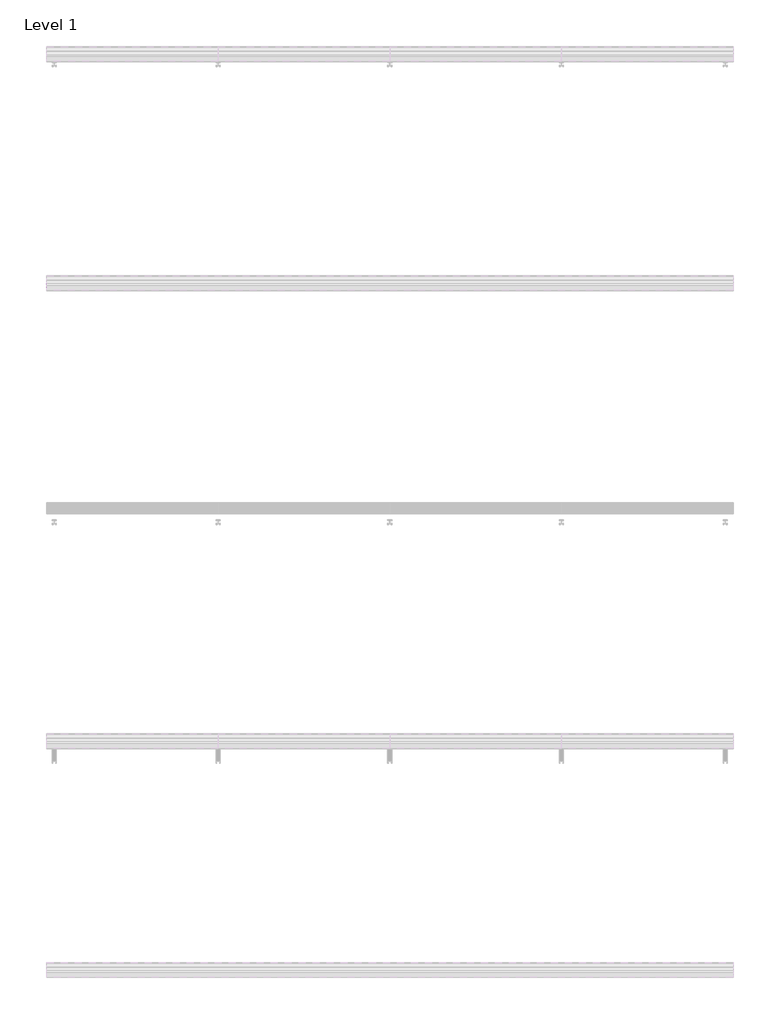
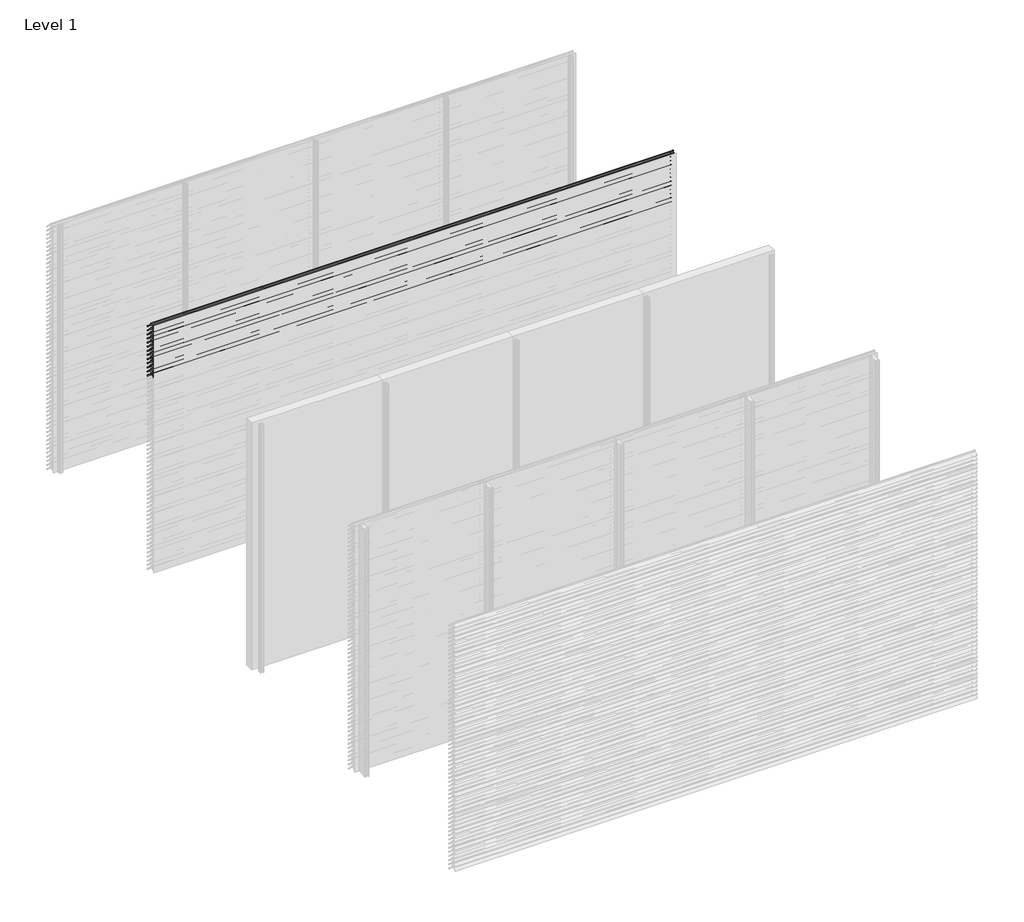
# One storey, part 37 of 173: 18 proxies.
"""IFC4 building model written with IfcOpenShell, lengths in millimetres."""

from ifc_helpers import new_model, si_unit, point, frame, frame_2d, origin, place, context, project, spatial, polyline, circle_curve, trimmed, segment, composite_curve, outline, extrude, element, save

model = new_model("IFC4")

# Units and contexts
model_context = context("Model", 3, world=origin())
ifc_project = project(units=[si_unit("LENGTHUNIT", "METRE", prefix="MILLI")], contexts=[model_context])

# Site, building, storey
site = spatial("IfcSite", under=ifc_project)
building = spatial("IfcBuilding", under=site)
storey = spatial("IfcBuildingStorey", under=building, Name="Level 1", Elevation=0.0)

# Proxies
placement = place(None, origin())
element("IfcBuildingElementProxy", 1, Name="Wall Sweeps", at=placement, inside=storey, context=model_context, shape_type="SweptSolid", body=[
    extrude(outline(composite_curve([segment(polyline([(-43998.0, 2959.1474905), (-43998.0, 2961.6227417)]), True, "CONTINUOUS"), segment(trimmed(circle_curve(frame_2d((-43951.2682172, 2916.2200208)), 65.1557103), [point((-43998.0, 2961.6227417))], [point((-43954.4014323, 2981.3003524))], False, "CARTESIAN"), True, "CONTINUOUS"), segment(polyline([(-43954.4014323, 2981.3003524), (-43934.8315836, 2981.3003524)]), True, "CONTINUOUS"), segment(trimmed(circle_curve(frame_2d((-43732.7329489, 3128.5533172)), 250.0545817), [point((-43934.8315836, 2981.3003524))], [point((-43941.4452143, 2990.8344583))], False, "CARTESIAN"), True, "CONTINUOUS"), segment(trimmed(circle_curve(frame_2d((-43953.2981792, 2985.1737835)), 13.1352966), [point((-43941.4452143, 2990.8344583))], [point((-43953.8171475, 2998.298824))], True, "CARTESIAN"), True, "CONTINUOUS"), segment(polyline([(-43953.8171475, 2998.298824), (-43953.8171475, 3000.0)]), True, "CONTINUOUS"), segment(trimmed(circle_curve(frame_2d((-43953.2981792, 2985.1737835)), 14.8352966), [point((-43953.8171475, 3000.0))], [point((-43939.9637661, 2991.6760487))], False, "CARTESIAN"), True, "CONTINUOUS"), segment(trimmed(circle_curve(frame_2d((-43732.7329489, 3128.5533172)), 248.3545817), [point((-43939.9637661, 2991.6760487))], [point((-43873.8787895, 2924.2059416))], True, "CARTESIAN"), True, "CONTINUOUS"), segment(trimmed(circle_curve(frame_2d((-43883.8147537, 2911.6649442)), 16.0), [point((-43873.8787895, 2924.2059416))], [point((-43867.8648347, 2910.4))], False, "CARTESIAN"), True, "CONTINUOUS"), segment(polyline([(-43867.8648347, 2910.4), (-43869.6712069, 2910.4)]), True, "CONTINUOUS"), segment(trimmed(circle_curve(frame_2d((-43883.8147537, 2911.6649442)), 14.2), [point((-43869.6712069, 2910.4))], [point((-43874.9518628, 2922.7594998))], True, "CARTESIAN"), True, "CONTINUOUS"), segment(trimmed(circle_curve(frame_2d((-43732.7329489, 3128.5533172)), 250.1545817), [point((-43874.9518628, 2922.7594998))], [point((-43933.7064024, 2979.6003524))], False, "CARTESIAN"), True, "CONTINUOUS"), segment(polyline([(-43933.7064024, 2979.6003524), (-43954.3602632, 2979.6003524)]), True, "CONTINUOUS"), segment(trimmed(circle_curve(frame_2d((-43951.2682172, 2916.2200208)), 63.4557103), [point((-43954.3602632, 2979.6003524))], [point((-43998.0, 2959.1474905))], True, "CARTESIAN"), True, "CONTINUOUS")], self_intersect=False)), frame((0.0, 0.0, 0.0), z_axis=(1.0, 0.0, 0.0), x_axis=(0.0, 1.0, 0.0)), (0.0, 0.0, 1.0), 6000.0),
])
element("IfcBuildingElementProxy", 2, Name="Wall Sweeps", at=placement, inside=storey, context=model_context, shape_type="SweptSolid", body=[
    extrude(outline(composite_curve([segment(polyline([(-43998.0, 2909.1474905), (-43998.0, 2911.6227417)]), True, "CONTINUOUS"), segment(trimmed(circle_curve(frame_2d((-43951.2682172, 2866.2200208)), 65.1557103), [point((-43998.0, 2911.6227417))], [point((-43954.4014323, 2931.3003524))], False, "CARTESIAN"), True, "CONTINUOUS"), segment(polyline([(-43954.4014323, 2931.3003524), (-43934.8315836, 2931.3003524)]), True, "CONTINUOUS"), segment(trimmed(circle_curve(frame_2d((-43732.7329489, 3078.5533172)), 250.0545817), [point((-43934.8315836, 2931.3003524))], [point((-43941.4452143, 2940.8344583))], False, "CARTESIAN"), True, "CONTINUOUS"), segment(trimmed(circle_curve(frame_2d((-43953.2981792, 2935.1737835)), 13.1352966), [point((-43941.4452143, 2940.8344583))], [point((-43953.8171475, 2948.298824))], True, "CARTESIAN"), True, "CONTINUOUS"), segment(polyline([(-43953.8171475, 2948.298824), (-43953.8171475, 2950.0)]), True, "CONTINUOUS"), segment(trimmed(circle_curve(frame_2d((-43953.2981792, 2935.1737835)), 14.8352966), [point((-43953.8171475, 2950.0))], [point((-43939.9637661, 2941.6760487))], False, "CARTESIAN"), True, "CONTINUOUS"), segment(trimmed(circle_curve(frame_2d((-43732.7329489, 3078.5533172)), 248.3545817), [point((-43939.9637661, 2941.6760487))], [point((-43873.8787895, 2874.2059416))], True, "CARTESIAN"), True, "CONTINUOUS"), segment(trimmed(circle_curve(frame_2d((-43883.8147537, 2861.6649442)), 16.0), [point((-43873.8787895, 2874.2059416))], [point((-43867.8648347, 2860.4))], False, "CARTESIAN"), True, "CONTINUOUS"), segment(polyline([(-43867.8648347, 2860.4), (-43869.6712069, 2860.4)]), True, "CONTINUOUS"), segment(trimmed(circle_curve(frame_2d((-43883.8147537, 2861.6649442)), 14.2), [point((-43869.6712069, 2860.4))], [point((-43874.9518628, 2872.7594998))], True, "CARTESIAN"), True, "CONTINUOUS"), segment(trimmed(circle_curve(frame_2d((-43732.7329489, 3078.5533172)), 250.1545817), [point((-43874.9518628, 2872.7594998))], [point((-43933.7064024, 2929.6003524))], False, "CARTESIAN"), True, "CONTINUOUS"), segment(polyline([(-43933.7064024, 2929.6003524), (-43954.3602632, 2929.6003524)]), True, "CONTINUOUS"), segment(trimmed(circle_curve(frame_2d((-43951.2682172, 2866.2200208)), 63.4557103), [point((-43954.3602632, 2929.6003524))], [point((-43998.0, 2909.1474905))], True, "CARTESIAN"), True, "CONTINUOUS")], self_intersect=False)), frame((0.0, 0.0, 0.0), z_axis=(1.0, 0.0, 0.0), x_axis=(0.0, 1.0, 0.0)), (0.0, 0.0, 1.0), 6000.0),
])
element("IfcBuildingElementProxy", 3, Name="Wall Sweeps", at=placement, inside=storey, context=model_context, shape_type="SweptSolid", body=[
    extrude(outline(composite_curve([segment(polyline([(-43998.0, 2859.1474905), (-43998.0, 2861.6227417)]), True, "CONTINUOUS"), segment(trimmed(circle_curve(frame_2d((-43951.2682172, 2816.2200208)), 65.1557103), [point((-43998.0, 2861.6227417))], [point((-43954.4014323, 2881.3003524))], False, "CARTESIAN"), True, "CONTINUOUS"), segment(polyline([(-43954.4014323, 2881.3003524), (-43934.8315836, 2881.3003524)]), True, "CONTINUOUS"), segment(trimmed(circle_curve(frame_2d((-43732.7329489, 3028.5533172)), 250.0545817), [point((-43934.8315836, 2881.3003524))], [point((-43941.4452143, 2890.8344583))], False, "CARTESIAN"), True, "CONTINUOUS"), segment(trimmed(circle_curve(frame_2d((-43953.2981792, 2885.1737835)), 13.1352966), [point((-43941.4452143, 2890.8344583))], [point((-43953.8171475, 2898.298824))], True, "CARTESIAN"), True, "CONTINUOUS"), segment(polyline([(-43953.8171475, 2898.298824), (-43953.8171475, 2900.0)]), True, "CONTINUOUS"), segment(trimmed(circle_curve(frame_2d((-43953.2981792, 2885.1737835)), 14.8352966), [point((-43953.8171475, 2900.0))], [point((-43939.9637661, 2891.6760487))], False, "CARTESIAN"), True, "CONTINUOUS"), segment(trimmed(circle_curve(frame_2d((-43732.7329489, 3028.5533172)), 248.3545817), [point((-43939.9637661, 2891.6760487))], [point((-43873.8787895, 2824.2059416))], True, "CARTESIAN"), True, "CONTINUOUS"), segment(trimmed(circle_curve(frame_2d((-43883.8147537, 2811.6649442)), 16.0), [point((-43873.8787895, 2824.2059416))], [point((-43867.8648347, 2810.4))], False, "CARTESIAN"), True, "CONTINUOUS"), segment(polyline([(-43867.8648347, 2810.4), (-43869.6712069, 2810.4)]), True, "CONTINUOUS"), segment(trimmed(circle_curve(frame_2d((-43883.8147537, 2811.6649442)), 14.2), [point((-43869.6712069, 2810.4))], [point((-43874.9518628, 2822.7594998))], True, "CARTESIAN"), True, "CONTINUOUS"), segment(trimmed(circle_curve(frame_2d((-43732.7329489, 3028.5533172)), 250.1545817), [point((-43874.9518628, 2822.7594998))], [point((-43933.7064024, 2879.6003524))], False, "CARTESIAN"), True, "CONTINUOUS"), segment(polyline([(-43933.7064024, 2879.6003524), (-43954.3602632, 2879.6003524)]), True, "CONTINUOUS"), segment(trimmed(circle_curve(frame_2d((-43951.2682172, 2816.2200208)), 63.4557103), [point((-43954.3602632, 2879.6003524))], [point((-43998.0, 2859.1474905))], True, "CARTESIAN"), True, "CONTINUOUS")], self_intersect=False)), frame((0.0, 0.0, 0.0), z_axis=(1.0, 0.0, 0.0), x_axis=(0.0, 1.0, 0.0)), (0.0, 0.0, 1.0), 6000.0),
])
element("IfcBuildingElementProxy", 4, Name="Wall Sweeps", at=placement, inside=storey, context=model_context, shape_type="SweptSolid", body=[
    extrude(outline(composite_curve([segment(polyline([(-43998.0, 2809.1474905), (-43998.0, 2811.6227417)]), True, "CONTINUOUS"), segment(trimmed(circle_curve(frame_2d((-43951.2682172, 2766.2200208)), 65.1557103), [point((-43998.0, 2811.6227417))], [point((-43954.4014323, 2831.3003524))], False, "CARTESIAN"), True, "CONTINUOUS"), segment(polyline([(-43954.4014323, 2831.3003524), (-43934.8315836, 2831.3003524)]), True, "CONTINUOUS"), segment(trimmed(circle_curve(frame_2d((-43732.7329489, 2978.5533172)), 250.0545817), [point((-43934.8315836, 2831.3003524))], [point((-43941.4452143, 2840.8344583))], False, "CARTESIAN"), True, "CONTINUOUS"), segment(trimmed(circle_curve(frame_2d((-43953.2981792, 2835.1737835)), 13.1352966), [point((-43941.4452143, 2840.8344583))], [point((-43953.8171475, 2848.298824))], True, "CARTESIAN"), True, "CONTINUOUS"), segment(polyline([(-43953.8171475, 2848.298824), (-43953.8171475, 2850.0)]), True, "CONTINUOUS"), segment(trimmed(circle_curve(frame_2d((-43953.2981792, 2835.1737835)), 14.8352966), [point((-43953.8171475, 2850.0))], [point((-43939.9637661, 2841.6760487))], False, "CARTESIAN"), True, "CONTINUOUS"), segment(trimmed(circle_curve(frame_2d((-43732.7329489, 2978.5533172)), 248.3545817), [point((-43939.9637661, 2841.6760487))], [point((-43873.8787895, 2774.2059416))], True, "CARTESIAN"), True, "CONTINUOUS"), segment(trimmed(circle_curve(frame_2d((-43883.8147537, 2761.6649442)), 16.0), [point((-43873.8787895, 2774.2059416))], [point((-43867.8648347, 2760.4))], False, "CARTESIAN"), True, "CONTINUOUS"), segment(polyline([(-43867.8648347, 2760.4), (-43869.6712069, 2760.4)]), True, "CONTINUOUS"), segment(trimmed(circle_curve(frame_2d((-43883.8147537, 2761.6649442)), 14.2), [point((-43869.6712069, 2760.4))], [point((-43874.9518628, 2772.7594998))], True, "CARTESIAN"), True, "CONTINUOUS"), segment(trimmed(circle_curve(frame_2d((-43732.7329489, 2978.5533172)), 250.1545817), [point((-43874.9518628, 2772.7594998))], [point((-43933.7064024, 2829.6003524))], False, "CARTESIAN"), True, "CONTINUOUS"), segment(polyline([(-43933.7064024, 2829.6003524), (-43954.3602632, 2829.6003524)]), True, "CONTINUOUS"), segment(trimmed(circle_curve(frame_2d((-43951.2682172, 2766.2200208)), 63.4557103), [point((-43954.3602632, 2829.6003524))], [point((-43998.0, 2809.1474905))], True, "CARTESIAN"), True, "CONTINUOUS")], self_intersect=False)), frame((0.0, 0.0, 0.0), z_axis=(1.0, 0.0, 0.0), x_axis=(0.0, 1.0, 0.0)), (0.0, 0.0, 1.0), 6000.0),
])
element("IfcBuildingElementProxy", 5, Name="Wall Sweeps", at=placement, inside=storey, context=model_context, shape_type="SweptSolid", body=[
    extrude(outline(composite_curve([segment(polyline([(-43998.0, 2759.1474905), (-43998.0, 2761.6227417)]), True, "CONTINUOUS"), segment(trimmed(circle_curve(frame_2d((-43951.2682172, 2716.2200208)), 65.1557103), [point((-43998.0, 2761.6227417))], [point((-43954.4014323, 2781.3003524))], False, "CARTESIAN"), True, "CONTINUOUS"), segment(polyline([(-43954.4014323, 2781.3003524), (-43934.8315836, 2781.3003524)]), True, "CONTINUOUS"), segment(trimmed(circle_curve(frame_2d((-43732.7329489, 2928.5533172)), 250.0545817), [point((-43934.8315836, 2781.3003524))], [point((-43941.4452143, 2790.8344583))], False, "CARTESIAN"), True, "CONTINUOUS"), segment(trimmed(circle_curve(frame_2d((-43953.2981792, 2785.1737835)), 13.1352966), [point((-43941.4452143, 2790.8344583))], [point((-43953.8171475, 2798.298824))], True, "CARTESIAN"), True, "CONTINUOUS"), segment(polyline([(-43953.8171475, 2798.298824), (-43953.8171475, 2800.0)]), True, "CONTINUOUS"), segment(trimmed(circle_curve(frame_2d((-43953.2981792, 2785.1737835)), 14.8352966), [point((-43953.8171475, 2800.0))], [point((-43939.9637661, 2791.6760487))], False, "CARTESIAN"), True, "CONTINUOUS"), segment(trimmed(circle_curve(frame_2d((-43732.7329489, 2928.5533172)), 248.3545817), [point((-43939.9637661, 2791.6760487))], [point((-43873.8787895, 2724.2059416))], True, "CARTESIAN"), True, "CONTINUOUS"), segment(trimmed(circle_curve(frame_2d((-43883.8147537, 2711.6649442)), 16.0), [point((-43873.8787895, 2724.2059416))], [point((-43867.8648347, 2710.4))], False, "CARTESIAN"), True, "CONTINUOUS"), segment(polyline([(-43867.8648347, 2710.4), (-43869.6712069, 2710.4)]), True, "CONTINUOUS"), segment(trimmed(circle_curve(frame_2d((-43883.8147537, 2711.6649442)), 14.2), [point((-43869.6712069, 2710.4))], [point((-43874.9518628, 2722.7594998))], True, "CARTESIAN"), True, "CONTINUOUS"), segment(trimmed(circle_curve(frame_2d((-43732.7329489, 2928.5533172)), 250.1545817), [point((-43874.9518628, 2722.7594998))], [point((-43933.7064024, 2779.6003524))], False, "CARTESIAN"), True, "CONTINUOUS"), segment(polyline([(-43933.7064024, 2779.6003524), (-43954.3602632, 2779.6003524)]), True, "CONTINUOUS"), segment(trimmed(circle_curve(frame_2d((-43951.2682172, 2716.2200208)), 63.4557103), [point((-43954.3602632, 2779.6003524))], [point((-43998.0, 2759.1474905))], True, "CARTESIAN"), True, "CONTINUOUS")], self_intersect=False)), frame((0.0, 0.0, 0.0), z_axis=(1.0, 0.0, 0.0), x_axis=(0.0, 1.0, 0.0)), (0.0, 0.0, 1.0), 6000.0),
])
element("IfcBuildingElementProxy", 6, Name="Wall Sweeps", at=placement, inside=storey, context=model_context, shape_type="SweptSolid", body=[
    extrude(outline(composite_curve([segment(polyline([(-43998.0, 2709.1474905), (-43998.0, 2711.6227417)]), True, "CONTINUOUS"), segment(trimmed(circle_curve(frame_2d((-43951.2682172, 2666.2200208)), 65.1557103), [point((-43998.0, 2711.6227417))], [point((-43954.4014323, 2731.3003524))], False, "CARTESIAN"), True, "CONTINUOUS"), segment(polyline([(-43954.4014323, 2731.3003524), (-43934.8315836, 2731.3003524)]), True, "CONTINUOUS"), segment(trimmed(circle_curve(frame_2d((-43732.7329489, 2878.5533172)), 250.0545817), [point((-43934.8315836, 2731.3003524))], [point((-43941.4452143, 2740.8344583))], False, "CARTESIAN"), True, "CONTINUOUS"), segment(trimmed(circle_curve(frame_2d((-43953.2981792, 2735.1737835)), 13.1352966), [point((-43941.4452143, 2740.8344583))], [point((-43953.8171475, 2748.298824))], True, "CARTESIAN"), True, "CONTINUOUS"), segment(polyline([(-43953.8171475, 2748.298824), (-43953.8171475, 2750.0)]), True, "CONTINUOUS"), segment(trimmed(circle_curve(frame_2d((-43953.2981792, 2735.1737835)), 14.8352966), [point((-43953.8171475, 2750.0))], [point((-43939.9637661, 2741.6760487))], False, "CARTESIAN"), True, "CONTINUOUS"), segment(trimmed(circle_curve(frame_2d((-43732.7329489, 2878.5533172)), 248.3545817), [point((-43939.9637661, 2741.6760487))], [point((-43873.8787895, 2674.2059416))], True, "CARTESIAN"), True, "CONTINUOUS"), segment(trimmed(circle_curve(frame_2d((-43883.8147537, 2661.6649442)), 16.0), [point((-43873.8787895, 2674.2059416))], [point((-43867.8648347, 2660.4))], False, "CARTESIAN"), True, "CONTINUOUS"), segment(polyline([(-43867.8648347, 2660.4), (-43869.6712069, 2660.4)]), True, "CONTINUOUS"), segment(trimmed(circle_curve(frame_2d((-43883.8147537, 2661.6649442)), 14.2), [point((-43869.6712069, 2660.4))], [point((-43874.9518628, 2672.7594998))], True, "CARTESIAN"), True, "CONTINUOUS"), segment(trimmed(circle_curve(frame_2d((-43732.7329489, 2878.5533172)), 250.1545817), [point((-43874.9518628, 2672.7594998))], [point((-43933.7064024, 2729.6003524))], False, "CARTESIAN"), True, "CONTINUOUS"), segment(polyline([(-43933.7064024, 2729.6003524), (-43954.3602632, 2729.6003524)]), True, "CONTINUOUS"), segment(trimmed(circle_curve(frame_2d((-43951.2682172, 2666.2200208)), 63.4557103), [point((-43954.3602632, 2729.6003524))], [point((-43998.0, 2709.1474905))], True, "CARTESIAN"), True, "CONTINUOUS")], self_intersect=False)), frame((0.0, 0.0, 0.0), z_axis=(1.0, 0.0, 0.0), x_axis=(0.0, 1.0, 0.0)), (0.0, 0.0, 1.0), 6000.0),
])
element("IfcBuildingElementProxy", 7, Name="Wall Sweeps", at=placement, inside=storey, context=model_context, shape_type="SweptSolid", body=[
    extrude(outline(composite_curve([segment(polyline([(-43998.0, 2659.1474905), (-43998.0, 2661.6227417)]), True, "CONTINUOUS"), segment(trimmed(circle_curve(frame_2d((-43951.2682172, 2616.2200208)), 65.1557103), [point((-43998.0, 2661.6227417))], [point((-43954.4014323, 2681.3003524))], False, "CARTESIAN"), True, "CONTINUOUS"), segment(polyline([(-43954.4014323, 2681.3003524), (-43934.8315836, 2681.3003524)]), True, "CONTINUOUS"), segment(trimmed(circle_curve(frame_2d((-43732.7329489, 2828.5533172)), 250.0545817), [point((-43934.8315836, 2681.3003524))], [point((-43941.4452143, 2690.8344583))], False, "CARTESIAN"), True, "CONTINUOUS"), segment(trimmed(circle_curve(frame_2d((-43953.2981792, 2685.1737835)), 13.1352966), [point((-43941.4452143, 2690.8344583))], [point((-43953.8171475, 2698.298824))], True, "CARTESIAN"), True, "CONTINUOUS"), segment(polyline([(-43953.8171475, 2698.298824), (-43953.8171475, 2700.0)]), True, "CONTINUOUS"), segment(trimmed(circle_curve(frame_2d((-43953.2981792, 2685.1737835)), 14.8352966), [point((-43953.8171475, 2700.0))], [point((-43939.9637661, 2691.6760487))], False, "CARTESIAN"), True, "CONTINUOUS"), segment(trimmed(circle_curve(frame_2d((-43732.7329489, 2828.5533172)), 248.3545817), [point((-43939.9637661, 2691.6760487))], [point((-43873.8787895, 2624.2059416))], True, "CARTESIAN"), True, "CONTINUOUS"), segment(trimmed(circle_curve(frame_2d((-43883.8147537, 2611.6649442)), 16.0), [point((-43873.8787895, 2624.2059416))], [point((-43867.8648347, 2610.4))], False, "CARTESIAN"), True, "CONTINUOUS"), segment(polyline([(-43867.8648347, 2610.4), (-43869.6712069, 2610.4)]), True, "CONTINUOUS"), segment(trimmed(circle_curve(frame_2d((-43883.8147537, 2611.6649442)), 14.2), [point((-43869.6712069, 2610.4))], [point((-43874.9518628, 2622.7594998))], True, "CARTESIAN"), True, "CONTINUOUS"), segment(trimmed(circle_curve(frame_2d((-43732.7329489, 2828.5533172)), 250.1545817), [point((-43874.9518628, 2622.7594998))], [point((-43933.7064024, 2679.6003524))], False, "CARTESIAN"), True, "CONTINUOUS"), segment(polyline([(-43933.7064024, 2679.6003524), (-43954.3602632, 2679.6003524)]), True, "CONTINUOUS"), segment(trimmed(circle_curve(frame_2d((-43951.2682172, 2616.2200208)), 63.4557103), [point((-43954.3602632, 2679.6003524))], [point((-43998.0, 2659.1474905))], True, "CARTESIAN"), True, "CONTINUOUS")], self_intersect=False)), frame((0.0, 0.0, 0.0), z_axis=(1.0, 0.0, 0.0), x_axis=(0.0, 1.0, 0.0)), (0.0, 0.0, 1.0), 6000.0),
])
element("IfcBuildingElementProxy", 8, Name="Wall Sweeps", at=placement, inside=storey, context=model_context, shape_type="SweptSolid", body=[
    extrude(outline(composite_curve([segment(polyline([(-43998.0, 2609.1474905), (-43998.0, 2611.6227417)]), True, "CONTINUOUS"), segment(trimmed(circle_curve(frame_2d((-43951.2682172, 2566.2200208)), 65.1557103), [point((-43998.0, 2611.6227417))], [point((-43954.4014323, 2631.3003524))], False, "CARTESIAN"), True, "CONTINUOUS"), segment(polyline([(-43954.4014323, 2631.3003524), (-43934.8315836, 2631.3003524)]), True, "CONTINUOUS"), segment(trimmed(circle_curve(frame_2d((-43732.7329489, 2778.5533172)), 250.0545817), [point((-43934.8315836, 2631.3003524))], [point((-43941.4452143, 2640.8344583))], False, "CARTESIAN"), True, "CONTINUOUS"), segment(trimmed(circle_curve(frame_2d((-43953.2981792, 2635.1737835)), 13.1352966), [point((-43941.4452143, 2640.8344583))], [point((-43953.8171475, 2648.298824))], True, "CARTESIAN"), True, "CONTINUOUS"), segment(polyline([(-43953.8171475, 2648.298824), (-43953.8171475, 2650.0)]), True, "CONTINUOUS"), segment(trimmed(circle_curve(frame_2d((-43953.2981792, 2635.1737835)), 14.8352966), [point((-43953.8171475, 2650.0))], [point((-43939.9637661, 2641.6760487))], False, "CARTESIAN"), True, "CONTINUOUS"), segment(trimmed(circle_curve(frame_2d((-43732.7329489, 2778.5533172)), 248.3545817), [point((-43939.9637661, 2641.6760487))], [point((-43873.8787895, 2574.2059416))], True, "CARTESIAN"), True, "CONTINUOUS"), segment(trimmed(circle_curve(frame_2d((-43883.8147537, 2561.6649442)), 16.0), [point((-43873.8787895, 2574.2059416))], [point((-43867.8648347, 2560.4))], False, "CARTESIAN"), True, "CONTINUOUS"), segment(polyline([(-43867.8648347, 2560.4), (-43869.6712069, 2560.4)]), True, "CONTINUOUS"), segment(trimmed(circle_curve(frame_2d((-43883.8147537, 2561.6649442)), 14.2), [point((-43869.6712069, 2560.4))], [point((-43874.9518628, 2572.7594998))], True, "CARTESIAN"), True, "CONTINUOUS"), segment(trimmed(circle_curve(frame_2d((-43732.7329489, 2778.5533172)), 250.1545817), [point((-43874.9518628, 2572.7594998))], [point((-43933.7064024, 2629.6003524))], False, "CARTESIAN"), True, "CONTINUOUS"), segment(polyline([(-43933.7064024, 2629.6003524), (-43954.3602632, 2629.6003524)]), True, "CONTINUOUS"), segment(trimmed(circle_curve(frame_2d((-43951.2682172, 2566.2200208)), 63.4557103), [point((-43954.3602632, 2629.6003524))], [point((-43998.0, 2609.1474905))], True, "CARTESIAN"), True, "CONTINUOUS")], self_intersect=False)), frame((0.0, 0.0, 0.0), z_axis=(1.0, 0.0, 0.0), x_axis=(0.0, 1.0, 0.0)), (0.0, 0.0, 1.0), 6000.0),
])
element("IfcBuildingElementProxy", 9, Name="Wall Sweeps", at=placement, inside=storey, context=model_context, shape_type="SweptSolid", body=[
    extrude(outline(composite_curve([segment(polyline([(-43998.0, 2559.1474905), (-43998.0, 2561.6227417)]), True, "CONTINUOUS"), segment(trimmed(circle_curve(frame_2d((-43951.2682172, 2516.2200208)), 65.1557103), [point((-43998.0, 2561.6227417))], [point((-43954.4014323, 2581.3003524))], False, "CARTESIAN"), True, "CONTINUOUS"), segment(polyline([(-43954.4014323, 2581.3003524), (-43934.8315836, 2581.3003524)]), True, "CONTINUOUS"), segment(trimmed(circle_curve(frame_2d((-43732.7329489, 2728.5533172)), 250.0545817), [point((-43934.8315836, 2581.3003524))], [point((-43941.4452143, 2590.8344583))], False, "CARTESIAN"), True, "CONTINUOUS"), segment(trimmed(circle_curve(frame_2d((-43953.2981792, 2585.1737835)), 13.1352966), [point((-43941.4452143, 2590.8344583))], [point((-43953.8171475, 2598.298824))], True, "CARTESIAN"), True, "CONTINUOUS"), segment(polyline([(-43953.8171475, 2598.298824), (-43953.8171475, 2600.0)]), True, "CONTINUOUS"), segment(trimmed(circle_curve(frame_2d((-43953.2981792, 2585.1737835)), 14.8352966), [point((-43953.8171475, 2600.0))], [point((-43939.9637661, 2591.6760487))], False, "CARTESIAN"), True, "CONTINUOUS"), segment(trimmed(circle_curve(frame_2d((-43732.7329489, 2728.5533172)), 248.3545817), [point((-43939.9637661, 2591.6760487))], [point((-43873.8787895, 2524.2059416))], True, "CARTESIAN"), True, "CONTINUOUS"), segment(trimmed(circle_curve(frame_2d((-43883.8147537, 2511.6649442)), 16.0), [point((-43873.8787895, 2524.2059416))], [point((-43867.8648347, 2510.4))], False, "CARTESIAN"), True, "CONTINUOUS"), segment(polyline([(-43867.8648347, 2510.4), (-43869.6712069, 2510.4)]), True, "CONTINUOUS"), segment(trimmed(circle_curve(frame_2d((-43883.8147537, 2511.6649442)), 14.2), [point((-43869.6712069, 2510.4))], [point((-43874.9518628, 2522.7594998))], True, "CARTESIAN"), True, "CONTINUOUS"), segment(trimmed(circle_curve(frame_2d((-43732.7329489, 2728.5533172)), 250.1545817), [point((-43874.9518628, 2522.7594998))], [point((-43933.7064024, 2579.6003524))], False, "CARTESIAN"), True, "CONTINUOUS"), segment(polyline([(-43933.7064024, 2579.6003524), (-43954.3602632, 2579.6003524)]), True, "CONTINUOUS"), segment(trimmed(circle_curve(frame_2d((-43951.2682172, 2516.2200208)), 63.4557103), [point((-43954.3602632, 2579.6003524))], [point((-43998.0, 2559.1474905))], True, "CARTESIAN"), True, "CONTINUOUS")], self_intersect=False)), frame((0.0, 0.0, 0.0), z_axis=(1.0, 0.0, 0.0), x_axis=(0.0, 1.0, 0.0)), (0.0, 0.0, 1.0), 6000.0),
])
element("IfcBuildingElementProxy", 10, Name="Wall Sweeps", at=placement, inside=storey, context=model_context, shape_type="SweptSolid", body=[
    extrude(outline(composite_curve([segment(polyline([(-43998.0, 2509.1474905), (-43998.0, 2511.6227417)]), True, "CONTINUOUS"), segment(trimmed(circle_curve(frame_2d((-43951.2682172, 2466.2200208)), 65.1557103), [point((-43998.0, 2511.6227417))], [point((-43954.4014323, 2531.3003524))], False, "CARTESIAN"), True, "CONTINUOUS"), segment(polyline([(-43954.4014323, 2531.3003524), (-43934.8315836, 2531.3003524)]), True, "CONTINUOUS"), segment(trimmed(circle_curve(frame_2d((-43732.7329489, 2678.5533172)), 250.0545817), [point((-43934.8315836, 2531.3003524))], [point((-43941.4452143, 2540.8344583))], False, "CARTESIAN"), True, "CONTINUOUS"), segment(trimmed(circle_curve(frame_2d((-43953.2981792, 2535.1737835)), 13.1352966), [point((-43941.4452143, 2540.8344583))], [point((-43953.8171475, 2548.298824))], True, "CARTESIAN"), True, "CONTINUOUS"), segment(polyline([(-43953.8171475, 2548.298824), (-43953.8171475, 2550.0)]), True, "CONTINUOUS"), segment(trimmed(circle_curve(frame_2d((-43953.2981792, 2535.1737835)), 14.8352966), [point((-43953.8171475, 2550.0))], [point((-43939.9637661, 2541.6760487))], False, "CARTESIAN"), True, "CONTINUOUS"), segment(trimmed(circle_curve(frame_2d((-43732.7329489, 2678.5533172)), 248.3545817), [point((-43939.9637661, 2541.6760487))], [point((-43873.8787895, 2474.2059416))], True, "CARTESIAN"), True, "CONTINUOUS"), segment(trimmed(circle_curve(frame_2d((-43883.8147537, 2461.6649442)), 16.0), [point((-43873.8787895, 2474.2059416))], [point((-43867.8648347, 2460.4))], False, "CARTESIAN"), True, "CONTINUOUS"), segment(polyline([(-43867.8648347, 2460.4), (-43869.6712069, 2460.4)]), True, "CONTINUOUS"), segment(trimmed(circle_curve(frame_2d((-43883.8147537, 2461.6649442)), 14.2), [point((-43869.6712069, 2460.4))], [point((-43874.9518628, 2472.7594998))], True, "CARTESIAN"), True, "CONTINUOUS"), segment(trimmed(circle_curve(frame_2d((-43732.7329489, 2678.5533172)), 250.1545817), [point((-43874.9518628, 2472.7594998))], [point((-43933.7064024, 2529.6003524))], False, "CARTESIAN"), True, "CONTINUOUS"), segment(polyline([(-43933.7064024, 2529.6003524), (-43954.3602632, 2529.6003524)]), True, "CONTINUOUS"), segment(trimmed(circle_curve(frame_2d((-43951.2682172, 2466.2200208)), 63.4557103), [point((-43954.3602632, 2529.6003524))], [point((-43998.0, 2509.1474905))], True, "CARTESIAN"), True, "CONTINUOUS")], self_intersect=False)), frame((0.0, 0.0, 0.0), z_axis=(1.0, 0.0, 0.0), x_axis=(0.0, 1.0, 0.0)), (0.0, 0.0, 1.0), 6000.0),
])
element("IfcBuildingElementProxy", 11, Name="Wall Sweeps", at=placement, inside=storey, context=model_context, shape_type="SweptSolid", body=[
    extrude(outline(composite_curve([segment(polyline([(-43998.0, 2459.1474905), (-43998.0, 2461.6227417)]), True, "CONTINUOUS"), segment(trimmed(circle_curve(frame_2d((-43951.2682172, 2416.2200208)), 65.1557103), [point((-43998.0, 2461.6227417))], [point((-43954.4014323, 2481.3003524))], False, "CARTESIAN"), True, "CONTINUOUS"), segment(polyline([(-43954.4014323, 2481.3003524), (-43934.8315836, 2481.3003524)]), True, "CONTINUOUS"), segment(trimmed(circle_curve(frame_2d((-43732.7329489, 2628.5533172)), 250.0545817), [point((-43934.8315836, 2481.3003524))], [point((-43941.4452143, 2490.8344583))], False, "CARTESIAN"), True, "CONTINUOUS"), segment(trimmed(circle_curve(frame_2d((-43953.2981792, 2485.1737835)), 13.1352966), [point((-43941.4452143, 2490.8344583))], [point((-43953.8171475, 2498.298824))], True, "CARTESIAN"), True, "CONTINUOUS"), segment(polyline([(-43953.8171475, 2498.298824), (-43953.8171475, 2500.0)]), True, "CONTINUOUS"), segment(trimmed(circle_curve(frame_2d((-43953.2981792, 2485.1737835)), 14.8352966), [point((-43953.8171475, 2500.0))], [point((-43939.9637661, 2491.6760487))], False, "CARTESIAN"), True, "CONTINUOUS"), segment(trimmed(circle_curve(frame_2d((-43732.7329489, 2628.5533172)), 248.3545817), [point((-43939.9637661, 2491.6760487))], [point((-43873.8787895, 2424.2059416))], True, "CARTESIAN"), True, "CONTINUOUS"), segment(trimmed(circle_curve(frame_2d((-43883.8147537, 2411.6649442)), 16.0), [point((-43873.8787895, 2424.2059416))], [point((-43867.8648347, 2410.4))], False, "CARTESIAN"), True, "CONTINUOUS"), segment(polyline([(-43867.8648347, 2410.4), (-43869.6712069, 2410.4)]), True, "CONTINUOUS"), segment(trimmed(circle_curve(frame_2d((-43883.8147537, 2411.6649442)), 14.2), [point((-43869.6712069, 2410.4))], [point((-43874.9518628, 2422.7594998))], True, "CARTESIAN"), True, "CONTINUOUS"), segment(trimmed(circle_curve(frame_2d((-43732.7329489, 2628.5533172)), 250.1545817), [point((-43874.9518628, 2422.7594998))], [point((-43933.7064024, 2479.6003524))], False, "CARTESIAN"), True, "CONTINUOUS"), segment(polyline([(-43933.7064024, 2479.6003524), (-43954.3602632, 2479.6003524)]), True, "CONTINUOUS"), segment(trimmed(circle_curve(frame_2d((-43951.2682172, 2416.2200208)), 63.4557103), [point((-43954.3602632, 2479.6003524))], [point((-43998.0, 2459.1474905))], True, "CARTESIAN"), True, "CONTINUOUS")], self_intersect=False)), frame((0.0, 0.0, 0.0), z_axis=(1.0, 0.0, 0.0), x_axis=(0.0, 1.0, 0.0)), (0.0, 0.0, 1.0), 6000.0),
])
element("IfcBuildingElementProxy", 12, Name="Wall Sweeps", at=placement, inside=storey, context=model_context, shape_type="SweptSolid", body=[
    extrude(outline(composite_curve([segment(polyline([(-43998.0, 2409.1474905), (-43998.0, 2411.6227417)]), True, "CONTINUOUS"), segment(trimmed(circle_curve(frame_2d((-43951.2682172, 2366.2200208)), 65.1557103), [point((-43998.0, 2411.6227417))], [point((-43954.4014323, 2431.3003524))], False, "CARTESIAN"), True, "CONTINUOUS"), segment(polyline([(-43954.4014323, 2431.3003524), (-43934.8315836, 2431.3003524)]), True, "CONTINUOUS"), segment(trimmed(circle_curve(frame_2d((-43732.7329489, 2578.5533172)), 250.0545817), [point((-43934.8315836, 2431.3003524))], [point((-43941.4452143, 2440.8344583))], False, "CARTESIAN"), True, "CONTINUOUS"), segment(trimmed(circle_curve(frame_2d((-43953.2981792, 2435.1737835)), 13.1352966), [point((-43941.4452143, 2440.8344583))], [point((-43953.8171475, 2448.298824))], True, "CARTESIAN"), True, "CONTINUOUS"), segment(polyline([(-43953.8171475, 2448.298824), (-43953.8171475, 2450.0)]), True, "CONTINUOUS"), segment(trimmed(circle_curve(frame_2d((-43953.2981792, 2435.1737835)), 14.8352966), [point((-43953.8171475, 2450.0))], [point((-43939.9637661, 2441.6760487))], False, "CARTESIAN"), True, "CONTINUOUS"), segment(trimmed(circle_curve(frame_2d((-43732.7329489, 2578.5533172)), 248.3545817), [point((-43939.9637661, 2441.6760487))], [point((-43873.8787895, 2374.2059416))], True, "CARTESIAN"), True, "CONTINUOUS"), segment(trimmed(circle_curve(frame_2d((-43883.8147537, 2361.6649442)), 16.0), [point((-43873.8787895, 2374.2059416))], [point((-43867.8648347, 2360.4))], False, "CARTESIAN"), True, "CONTINUOUS"), segment(polyline([(-43867.8648347, 2360.4), (-43869.6712069, 2360.4)]), True, "CONTINUOUS"), segment(trimmed(circle_curve(frame_2d((-43883.8147537, 2361.6649442)), 14.2), [point((-43869.6712069, 2360.4))], [point((-43874.9518628, 2372.7594998))], True, "CARTESIAN"), True, "CONTINUOUS"), segment(trimmed(circle_curve(frame_2d((-43732.7329489, 2578.5533172)), 250.1545817), [point((-43874.9518628, 2372.7594998))], [point((-43933.7064024, 2429.6003524))], False, "CARTESIAN"), True, "CONTINUOUS"), segment(polyline([(-43933.7064024, 2429.6003524), (-43954.3602632, 2429.6003524)]), True, "CONTINUOUS"), segment(trimmed(circle_curve(frame_2d((-43951.2682172, 2366.2200208)), 63.4557103), [point((-43954.3602632, 2429.6003524))], [point((-43998.0, 2409.1474905))], True, "CARTESIAN"), True, "CONTINUOUS")], self_intersect=False)), frame((0.0, 0.0, 0.0), z_axis=(1.0, 0.0, 0.0), x_axis=(0.0, 1.0, 0.0)), (0.0, 0.0, 1.0), 6000.0),
])
element("IfcBuildingElementProxy", 13, Name="Wall Sweeps", at=placement, inside=storey, context=model_context, shape_type="SweptSolid", body=[
    extrude(outline(composite_curve([segment(polyline([(-43998.0, 2359.1474905), (-43998.0, 2361.6227417)]), True, "CONTINUOUS"), segment(trimmed(circle_curve(frame_2d((-43951.2682172, 2316.2200208)), 65.1557103), [point((-43998.0, 2361.6227417))], [point((-43954.4014323, 2381.3003524))], False, "CARTESIAN"), True, "CONTINUOUS"), segment(polyline([(-43954.4014323, 2381.3003524), (-43934.8315836, 2381.3003524)]), True, "CONTINUOUS"), segment(trimmed(circle_curve(frame_2d((-43732.7329489, 2528.5533172)), 250.0545817), [point((-43934.8315836, 2381.3003524))], [point((-43941.4452143, 2390.8344583))], False, "CARTESIAN"), True, "CONTINUOUS"), segment(trimmed(circle_curve(frame_2d((-43953.2981792, 2385.1737835)), 13.1352966), [point((-43941.4452143, 2390.8344583))], [point((-43953.8171475, 2398.298824))], True, "CARTESIAN"), True, "CONTINUOUS"), segment(polyline([(-43953.8171475, 2398.298824), (-43953.8171475, 2400.0)]), True, "CONTINUOUS"), segment(trimmed(circle_curve(frame_2d((-43953.2981792, 2385.1737835)), 14.8352966), [point((-43953.8171475, 2400.0))], [point((-43939.9637661, 2391.6760487))], False, "CARTESIAN"), True, "CONTINUOUS"), segment(trimmed(circle_curve(frame_2d((-43732.7329489, 2528.5533172)), 248.3545817), [point((-43939.9637661, 2391.6760487))], [point((-43873.8787895, 2324.2059416))], True, "CARTESIAN"), True, "CONTINUOUS"), segment(trimmed(circle_curve(frame_2d((-43883.8147537, 2311.6649442)), 16.0), [point((-43873.8787895, 2324.2059416))], [point((-43867.8648347, 2310.4))], False, "CARTESIAN"), True, "CONTINUOUS"), segment(polyline([(-43867.8648347, 2310.4), (-43869.6712069, 2310.4)]), True, "CONTINUOUS"), segment(trimmed(circle_curve(frame_2d((-43883.8147537, 2311.6649442)), 14.2), [point((-43869.6712069, 2310.4))], [point((-43874.9518628, 2322.7594998))], True, "CARTESIAN"), True, "CONTINUOUS"), segment(trimmed(circle_curve(frame_2d((-43732.7329489, 2528.5533172)), 250.1545817), [point((-43874.9518628, 2322.7594998))], [point((-43933.7064024, 2379.6003524))], False, "CARTESIAN"), True, "CONTINUOUS"), segment(polyline([(-43933.7064024, 2379.6003524), (-43954.3602632, 2379.6003524)]), True, "CONTINUOUS"), segment(trimmed(circle_curve(frame_2d((-43951.2682172, 2316.2200208)), 63.4557103), [point((-43954.3602632, 2379.6003524))], [point((-43998.0, 2359.1474905))], True, "CARTESIAN"), True, "CONTINUOUS")], self_intersect=False)), frame((0.0, 0.0, 0.0), z_axis=(1.0, 0.0, 0.0), x_axis=(0.0, 1.0, 0.0)), (0.0, 0.0, 1.0), 6000.0),
])
element("IfcBuildingElementProxy", 14, Name="Wall Sweeps", at=placement, inside=storey, context=model_context, shape_type="SweptSolid", body=[
    extrude(outline(composite_curve([segment(polyline([(-47998.0, 209.1474905), (-47998.0, 211.6227417)]), True, "CONTINUOUS"), segment(trimmed(circle_curve(frame_2d((-47951.2682172, 166.2200208)), 65.1557103), [point((-47998.0, 211.6227417))], [point((-47954.4014323, 231.3003524))], False, "CARTESIAN"), True, "CONTINUOUS"), segment(polyline([(-47954.4014323, 231.3003524), (-47934.8315836, 231.3003524)]), True, "CONTINUOUS"), segment(trimmed(circle_curve(frame_2d((-47732.7329489, 378.5533172)), 250.0545817), [point((-47934.8315836, 231.3003524))], [point((-47941.4452143, 240.8344583))], False, "CARTESIAN"), True, "CONTINUOUS"), segment(trimmed(circle_curve(frame_2d((-47953.2981792, 235.1737835)), 13.1352966), [point((-47941.4452143, 240.8344583))], [point((-47953.8171475, 248.298824))], True, "CARTESIAN"), True, "CONTINUOUS"), segment(polyline([(-47953.8171475, 248.298824), (-47953.8171475, 250.0)]), True, "CONTINUOUS"), segment(trimmed(circle_curve(frame_2d((-47953.2981792, 235.1737835)), 14.8352966), [point((-47953.8171475, 250.0))], [point((-47939.9637661, 241.6760487))], False, "CARTESIAN"), True, "CONTINUOUS"), segment(trimmed(circle_curve(frame_2d((-47732.7329489, 378.5533172)), 248.3545817), [point((-47939.9637661, 241.6760487))], [point((-47873.8787895, 174.2059416))], True, "CARTESIAN"), True, "CONTINUOUS"), segment(trimmed(circle_curve(frame_2d((-47883.8147537, 161.6649442)), 16.0), [point((-47873.8787895, 174.2059416))], [point((-47867.8648347, 160.4))], False, "CARTESIAN"), True, "CONTINUOUS"), segment(polyline([(-47867.8648347, 160.4), (-47869.6712069, 160.4)]), True, "CONTINUOUS"), segment(trimmed(circle_curve(frame_2d((-47883.8147537, 161.6649442)), 14.2), [point((-47869.6712069, 160.4))], [point((-47874.9518628, 172.7594998))], True, "CARTESIAN"), True, "CONTINUOUS"), segment(trimmed(circle_curve(frame_2d((-47732.7329489, 378.5533172)), 250.1545817), [point((-47874.9518628, 172.7594998))], [point((-47933.7064024, 229.6003524))], False, "CARTESIAN"), True, "CONTINUOUS"), segment(polyline([(-47933.7064024, 229.6003524), (-47954.3602632, 229.6003524)]), True, "CONTINUOUS"), segment(trimmed(circle_curve(frame_2d((-47951.2682172, 166.2200208)), 63.4557103), [point((-47954.3602632, 229.6003524))], [point((-47998.0, 209.1474905))], True, "CARTESIAN"), True, "CONTINUOUS")], self_intersect=False)), frame((4500.0, 0.0, 0.0), z_axis=(1.0, 0.0, 0.0), x_axis=(0.0, 1.0, 0.0)), (0.0, 0.0, 1.0), 1500.0),
])
element("IfcBuildingElementProxy", 15, Name="Wall Sweeps", at=placement, inside=storey, context=model_context, shape_type="SweptSolid", body=[
    extrude(outline(composite_curve([segment(polyline([(-47998.0, 159.1474905), (-47998.0, 161.6227417)]), True, "CONTINUOUS"), segment(trimmed(circle_curve(frame_2d((-47951.2682172, 116.2200208)), 65.1557103), [point((-47998.0, 161.6227417))], [point((-47954.4014323, 181.3003524))], False, "CARTESIAN"), True, "CONTINUOUS"), segment(polyline([(-47954.4014323, 181.3003524), (-47934.8315836, 181.3003524)]), True, "CONTINUOUS"), segment(trimmed(circle_curve(frame_2d((-47732.7329489, 328.5533172)), 250.0545817), [point((-47934.8315836, 181.3003524))], [point((-47941.4452143, 190.8344583))], False, "CARTESIAN"), True, "CONTINUOUS"), segment(trimmed(circle_curve(frame_2d((-47953.2981792, 185.1737835)), 13.1352966), [point((-47941.4452143, 190.8344583))], [point((-47953.8171475, 198.298824))], True, "CARTESIAN"), True, "CONTINUOUS"), segment(polyline([(-47953.8171475, 198.298824), (-47953.8171475, 200.0)]), True, "CONTINUOUS"), segment(trimmed(circle_curve(frame_2d((-47953.2981792, 185.1737835)), 14.8352966), [point((-47953.8171475, 200.0))], [point((-47939.9637661, 191.6760487))], False, "CARTESIAN"), True, "CONTINUOUS"), segment(trimmed(circle_curve(frame_2d((-47732.7329489, 328.5533172)), 248.3545817), [point((-47939.9637661, 191.6760487))], [point((-47873.8787895, 124.2059416))], True, "CARTESIAN"), True, "CONTINUOUS"), segment(trimmed(circle_curve(frame_2d((-47883.8147537, 111.6649442)), 16.0), [point((-47873.8787895, 124.2059416))], [point((-47867.8648347, 110.4))], False, "CARTESIAN"), True, "CONTINUOUS"), segment(polyline([(-47867.8648347, 110.4), (-47869.6712069, 110.4)]), True, "CONTINUOUS"), segment(trimmed(circle_curve(frame_2d((-47883.8147537, 111.6649442)), 14.2), [point((-47869.6712069, 110.4))], [point((-47874.9518628, 122.7594998))], True, "CARTESIAN"), True, "CONTINUOUS"), segment(trimmed(circle_curve(frame_2d((-47732.7329489, 328.5533172)), 250.1545817), [point((-47874.9518628, 122.7594998))], [point((-47933.7064024, 179.6003524))], False, "CARTESIAN"), True, "CONTINUOUS"), segment(polyline([(-47933.7064024, 179.6003524), (-47954.3602632, 179.6003524)]), True, "CONTINUOUS"), segment(trimmed(circle_curve(frame_2d((-47951.2682172, 116.2200208)), 63.4557103), [point((-47954.3602632, 179.6003524))], [point((-47998.0, 159.1474905))], True, "CARTESIAN"), True, "CONTINUOUS")], self_intersect=False)), frame((4500.0, 0.0, 0.0), z_axis=(1.0, 0.0, 0.0), x_axis=(0.0, 1.0, 0.0)), (0.0, 0.0, 1.0), 1500.0),
])
element("IfcBuildingElementProxy", 16, Name="Wall Sweeps", at=placement, inside=storey, context=model_context, shape_type="SweptSolid", body=[
    extrude(outline(composite_curve([segment(polyline([(-47998.0, 109.1474905), (-47998.0, 111.6227417)]), True, "CONTINUOUS"), segment(trimmed(circle_curve(frame_2d((-47951.2682172, 66.2200208)), 65.1557103), [point((-47998.0, 111.6227417))], [point((-47954.4014323, 131.3003524))], False, "CARTESIAN"), True, "CONTINUOUS"), segment(polyline([(-47954.4014323, 131.3003524), (-47934.8315836, 131.3003524)]), True, "CONTINUOUS"), segment(trimmed(circle_curve(frame_2d((-47732.7329489, 278.5533172)), 250.0545817), [point((-47934.8315836, 131.3003524))], [point((-47941.4452143, 140.8344583))], False, "CARTESIAN"), True, "CONTINUOUS"), segment(trimmed(circle_curve(frame_2d((-47953.2981792, 135.1737835)), 13.1352966), [point((-47941.4452143, 140.8344583))], [point((-47953.8171475, 148.298824))], True, "CARTESIAN"), True, "CONTINUOUS"), segment(polyline([(-47953.8171475, 148.298824), (-47953.8171475, 150.0)]), True, "CONTINUOUS"), segment(trimmed(circle_curve(frame_2d((-47953.2981792, 135.1737835)), 14.8352966), [point((-47953.8171475, 150.0))], [point((-47939.9637661, 141.6760487))], False, "CARTESIAN"), True, "CONTINUOUS"), segment(trimmed(circle_curve(frame_2d((-47732.7329489, 278.5533172)), 248.3545817), [point((-47939.9637661, 141.6760487))], [point((-47873.8787895, 74.2059416))], True, "CARTESIAN"), True, "CONTINUOUS"), segment(trimmed(circle_curve(frame_2d((-47883.8147537, 61.6649442)), 16.0), [point((-47873.8787895, 74.2059416))], [point((-47867.8648347, 60.4))], False, "CARTESIAN"), True, "CONTINUOUS"), segment(polyline([(-47867.8648347, 60.4), (-47869.6712069, 60.4)]), True, "CONTINUOUS"), segment(trimmed(circle_curve(frame_2d((-47883.8147537, 61.6649442)), 14.2), [point((-47869.6712069, 60.4))], [point((-47874.9518628, 72.7594998))], True, "CARTESIAN"), True, "CONTINUOUS"), segment(trimmed(circle_curve(frame_2d((-47732.7329489, 278.5533172)), 250.1545817), [point((-47874.9518628, 72.7594998))], [point((-47933.7064024, 129.6003524))], False, "CARTESIAN"), True, "CONTINUOUS"), segment(polyline([(-47933.7064024, 129.6003524), (-47954.3602632, 129.6003524)]), True, "CONTINUOUS"), segment(trimmed(circle_curve(frame_2d((-47951.2682172, 66.2200208)), 63.4557103), [point((-47954.3602632, 129.6003524))], [point((-47998.0, 109.1474905))], True, "CARTESIAN"), True, "CONTINUOUS")], self_intersect=False)), frame((4500.0, 0.0, 0.0), z_axis=(1.0, 0.0, 0.0), x_axis=(0.0, 1.0, 0.0)), (0.0, 0.0, 1.0), 1500.0),
])
element("IfcBuildingElementProxy", 17, Name="Wall Sweeps", at=placement, inside=storey, context=model_context, shape_type="SweptSolid", body=[
    extrude(outline(composite_curve([segment(polyline([(-47998.0, 59.1474905), (-47998.0, 61.6227417)]), True, "CONTINUOUS"), segment(trimmed(circle_curve(frame_2d((-47951.2682172, 16.2200208)), 65.1557103), [point((-47998.0, 61.6227417))], [point((-47954.4014323, 81.3003524))], False, "CARTESIAN"), True, "CONTINUOUS"), segment(polyline([(-47954.4014323, 81.3003524), (-47934.8315836, 81.3003524)]), True, "CONTINUOUS"), segment(trimmed(circle_curve(frame_2d((-47732.7329489, 228.5533172)), 250.0545817), [point((-47934.8315836, 81.3003524))], [point((-47941.4452143, 90.8344583))], False, "CARTESIAN"), True, "CONTINUOUS"), segment(trimmed(circle_curve(frame_2d((-47953.2981792, 85.1737835)), 13.1352966), [point((-47941.4452143, 90.8344583))], [point((-47953.8171475, 98.298824))], True, "CARTESIAN"), True, "CONTINUOUS"), segment(polyline([(-47953.8171475, 98.298824), (-47953.8171475, 100.0)]), True, "CONTINUOUS"), segment(trimmed(circle_curve(frame_2d((-47953.2981792, 85.1737835)), 14.8352966), [point((-47953.8171475, 100.0))], [point((-47939.9637661, 91.6760487))], False, "CARTESIAN"), True, "CONTINUOUS"), segment(trimmed(circle_curve(frame_2d((-47732.7329489, 228.5533172)), 248.3545817), [point((-47939.9637661, 91.6760487))], [point((-47873.8787895, 24.2059416))], True, "CARTESIAN"), True, "CONTINUOUS"), segment(trimmed(circle_curve(frame_2d((-47883.8147537, 11.6649442)), 16.0), [point((-47873.8787895, 24.2059416))], [point((-47867.8648347, 10.4))], False, "CARTESIAN"), True, "CONTINUOUS"), segment(polyline([(-47867.8648347, 10.4), (-47869.6712069, 10.4)]), True, "CONTINUOUS"), segment(trimmed(circle_curve(frame_2d((-47883.8147537, 11.6649442)), 14.2), [point((-47869.6712069, 10.4))], [point((-47874.9518628, 22.7594998))], True, "CARTESIAN"), True, "CONTINUOUS"), segment(trimmed(circle_curve(frame_2d((-47732.7329489, 228.5533172)), 250.1545817), [point((-47874.9518628, 22.7594998))], [point((-47933.7064024, 79.6003524))], False, "CARTESIAN"), True, "CONTINUOUS"), segment(polyline([(-47933.7064024, 79.6003524), (-47954.3602632, 79.6003524)]), True, "CONTINUOUS"), segment(trimmed(circle_curve(frame_2d((-47951.2682172, 16.2200208)), 63.4557103), [point((-47954.3602632, 79.6003524))], [point((-47998.0, 59.1474905))], True, "CARTESIAN"), True, "CONTINUOUS")], self_intersect=False)), frame((4500.0, 0.0, 0.0), z_axis=(1.0, 0.0, 0.0), x_axis=(0.0, 1.0, 0.0)), (0.0, 0.0, 1.0), 1500.0),
])
element("IfcBuildingElementProxy", 18, Name="Wall Sweeps", at=placement, inside=storey, context=model_context, shape_type="SweptSolid", body=[
    extrude(outline(composite_curve([segment(polyline([(-47998.0, 9.1474905), (-47998.0, 11.6227417)]), True, "CONTINUOUS"), segment(trimmed(circle_curve(frame_2d((-47951.2682172, -33.7799792)), 65.1557103), [point((-47998.0, 11.6227417))], [point((-47954.4014323, 31.3003524))], False, "CARTESIAN"), True, "CONTINUOUS"), segment(polyline([(-47954.4014323, 31.3003524), (-47934.8315836, 31.3003524)]), True, "CONTINUOUS"), segment(trimmed(circle_curve(frame_2d((-47732.7329489, 178.5533172)), 250.0545817), [point((-47934.8315836, 31.3003524))], [point((-47941.4452143, 40.8344583))], False, "CARTESIAN"), True, "CONTINUOUS"), segment(trimmed(circle_curve(frame_2d((-47953.2981792, 35.1737835)), 13.1352966), [point((-47941.4452143, 40.8344583))], [point((-47953.8171475, 48.298824))], True, "CARTESIAN"), True, "CONTINUOUS"), segment(polyline([(-47953.8171475, 48.298824), (-47953.8171475, 50.0)]), True, "CONTINUOUS"), segment(trimmed(circle_curve(frame_2d((-47953.2981792, 35.1737835)), 14.8352966), [point((-47953.8171475, 50.0))], [point((-47939.9637661, 41.6760487))], False, "CARTESIAN"), True, "CONTINUOUS"), segment(trimmed(circle_curve(frame_2d((-47732.7329489, 178.5533172)), 248.3545817), [point((-47939.9637661, 41.6760487))], [point((-47873.8787895, -25.7940584))], True, "CARTESIAN"), True, "CONTINUOUS"), segment(trimmed(circle_curve(frame_2d((-47883.8147537, -38.3350558)), 16.0), [point((-47873.8787895, -25.7940584))], [point((-47867.8648347, -39.6))], False, "CARTESIAN"), True, "CONTINUOUS"), segment(polyline([(-47867.8648347, -39.6), (-47869.6712069, -39.6)]), True, "CONTINUOUS"), segment(trimmed(circle_curve(frame_2d((-47883.8147537, -38.3350558)), 14.2), [point((-47869.6712069, -39.6))], [point((-47874.9518628, -27.2405002))], True, "CARTESIAN"), True, "CONTINUOUS"), segment(trimmed(circle_curve(frame_2d((-47732.7329489, 178.5533172)), 250.1545817), [point((-47874.9518628, -27.2405002))], [point((-47933.7064024, 29.6003524))], False, "CARTESIAN"), True, "CONTINUOUS"), segment(polyline([(-47933.7064024, 29.6003524), (-47954.3602632, 29.6003524)]), True, "CONTINUOUS"), segment(trimmed(circle_curve(frame_2d((-47951.2682172, -33.7799792)), 63.4557103), [point((-47954.3602632, 29.6003524))], [point((-47998.0, 9.1474905))], True, "CARTESIAN"), True, "CONTINUOUS")], self_intersect=False)), frame((4500.0, 0.0, 0.0), z_axis=(1.0, 0.0, 0.0), x_axis=(0.0, 1.0, 0.0)), (0.0, 0.0, 1.0), 1500.0),
])

save(model, "model.ifc")
